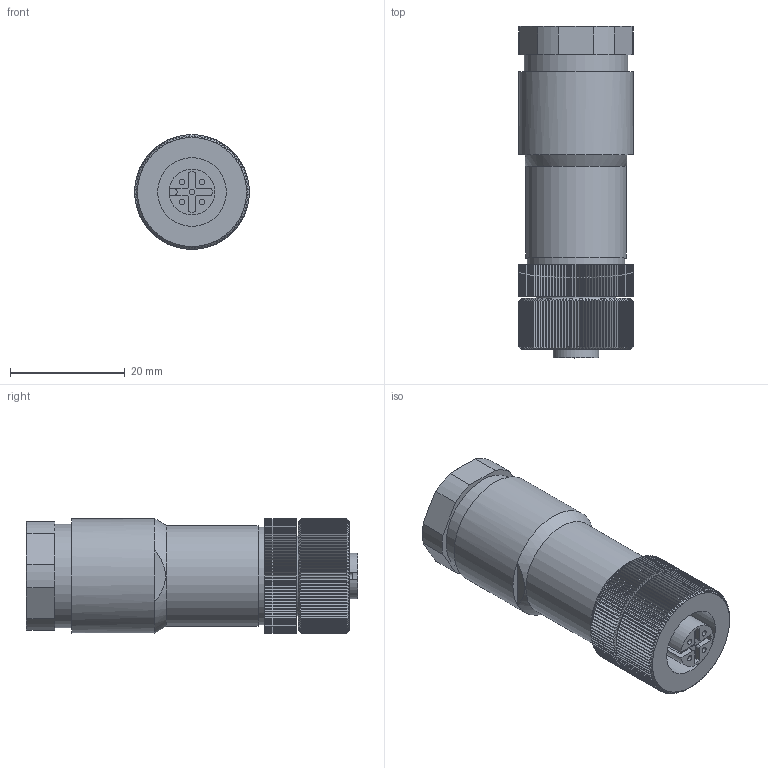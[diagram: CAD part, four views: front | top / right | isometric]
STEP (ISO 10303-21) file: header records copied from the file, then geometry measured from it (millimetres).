
FILE_DESCRIPTION((''),'2;1');
FILE_NAME('C:\TurckZip\DBK81.stp','2011-01-04T14:25:01',('IKOROL'),(''),'Autodesk Inventor 2010','Autodesk Inventor 2010','');
FILE_SCHEMA(('CONFIG_CONTROL_DESIGN'));
Length unit declared in the file: millimetre
Products named in the file (1): Part3
Bounding box: 20.04 x 57.95 x 20.04 mm (x, y, z)
Volume: 14341 mm3; surface area: 6917.7 mm2
Topology: 1 solids, 2 shells, 1048 faces, 2642 edges, 1613 vertices
Faces by surface type: plane 579, cylinder 246, cone 223
Full cylindrical faces by diameter (mm): 1 x5, 2.2 x2, 11.4 x1, 12 x1, 14 x1, 17 x1, 17.6 x1, 18 x1, 20 x1
Entity records: 31511 total; most frequent: CARTESIAN_POINT 6177, ORIENTED_EDGE 5250, DIRECTION 5102, EDGE_CURVE 2625, AXIS2_PLACEMENT_3D 1874, VERTEX_POINT 1611, VECTOR 1354, LINE 1354
